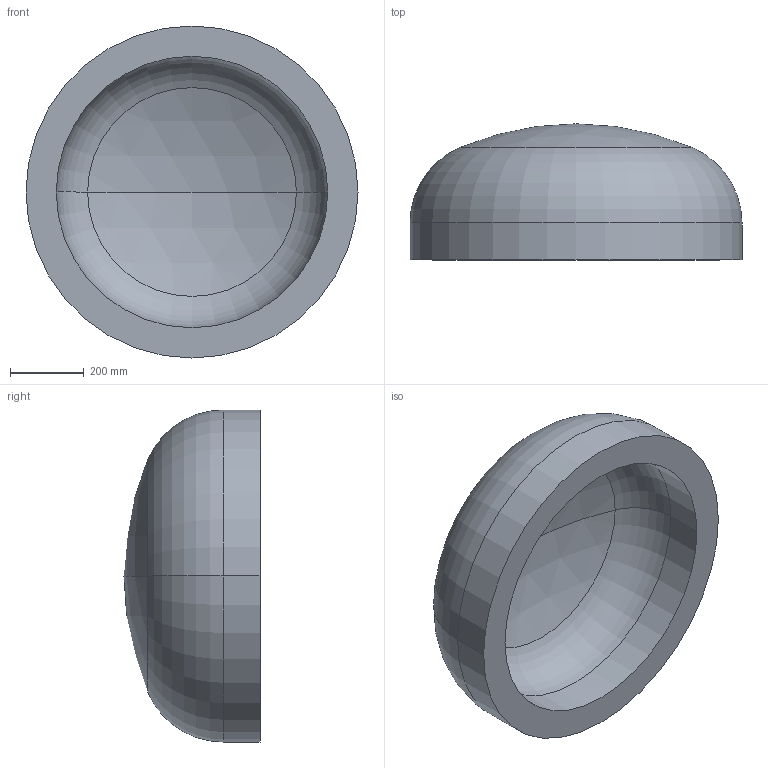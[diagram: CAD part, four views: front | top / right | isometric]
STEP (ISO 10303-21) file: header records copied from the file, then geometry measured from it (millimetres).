
FILE_DESCRIPTION (( 'STEP AP203' ), '1' );
FILE_NAME ('DIN 28013 Korbbogenform_-_Boden DIN 28013 - 900 x 100 - I - s=82.step', '2016-07-01T08:36:35', ( '' ), ( '' ), 'SwSTEP 2.0', 'SolidWorks 2013', '' );
FILE_SCHEMA (( 'CONFIG_CONTROL_DESIGN' ));
Length unit declared in the file: millimetre
Products named in the file (1): DIN 28013 Korbbogenform_-_Boden DIN 28013 - 900 x 100 - I - s=82
Bounding box: 900 x 368.69 x 900 mm (x, y, z)
Volume: 85710959.9 mm3; surface area: 2315319.1 mm2
Topology: 1 solids, 1 shells, 13 faces, 24 edges, 14 vertices
Faces by surface type: torus 4, cylinder 4, sphere 4, plane 1
Entity records: 407 total; most frequent: DIRECTION 72, CARTESIAN_POINT 52, ORIENTED_EDGE 48, AXIS2_PLACEMENT_3D 34, EDGE_CURVE 24, CIRCLE 20, VERTEX_POINT 14, EDGE_LOOP 14
